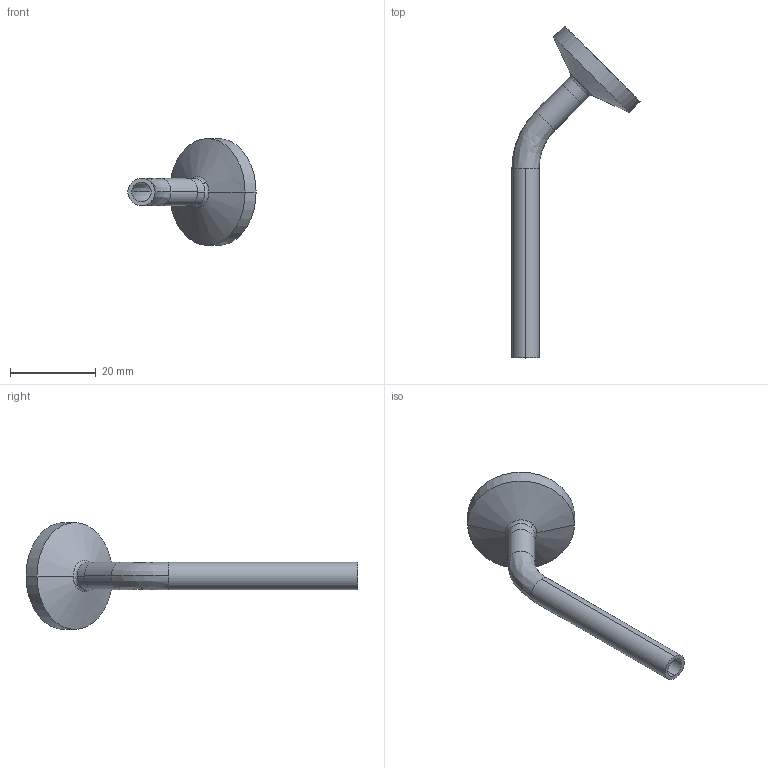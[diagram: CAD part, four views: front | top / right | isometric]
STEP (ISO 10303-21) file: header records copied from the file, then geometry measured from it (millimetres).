
FILE_DESCRIPTION (( 'STEP AP214' ), '1' );
FILE_NAME ('TE2KC6L.25-...STEP', '2016-05-22T06:26:04', ( 'eran' ), ( '' ), 'SwSTEP 2.0', 'SolidWorks 2016', '' );
FILE_SCHEMA (( 'AUTOMOTIVE_DESIGN' ));
Length unit declared in the file: millimetre
Products named in the file (1): TE2KC6L.25-..
Bounding box: 29.97 x 77.6 x 24.99 mm (x, y, z)
Volume: 3034.9 mm3; surface area: 3877.3 mm2
Topology: 2 solids, 2 shells, 37 faces, 90 edges, 58 vertices
Faces by surface type: cylinder 16, bspline 12, plane 5, cone 4
Entity records: 1305 total; most frequent: CARTESIAN_POINT 378, DIRECTION 204, ORIENTED_EDGE 180, AXIS2_PLACEMENT_3D 92, EDGE_CURVE 90, CIRCLE 66, VERTEX_POINT 58, EDGE_LOOP 42
